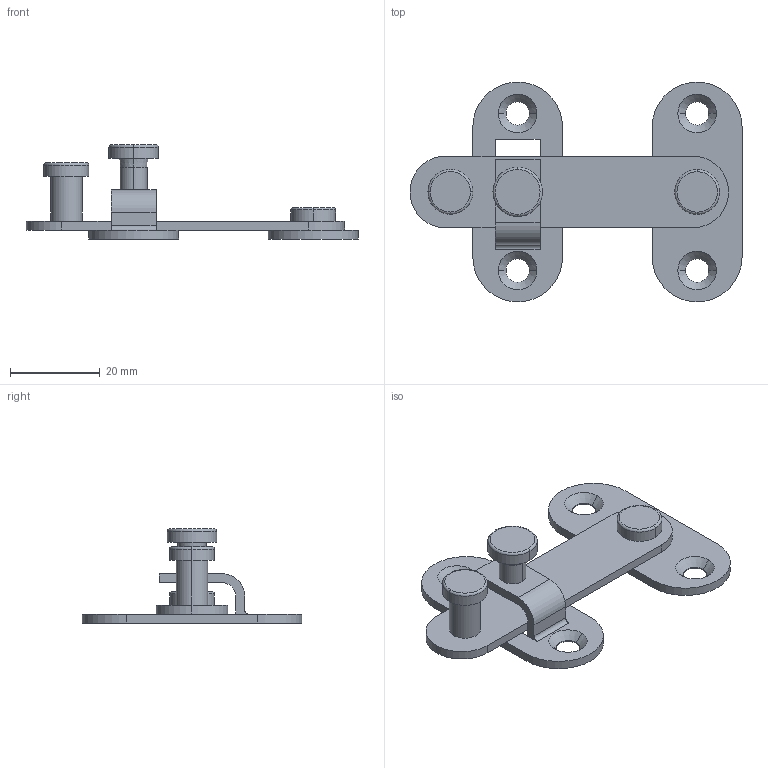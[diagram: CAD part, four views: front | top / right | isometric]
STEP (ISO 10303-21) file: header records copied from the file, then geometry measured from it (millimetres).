
FILE_DESCRIPTION (( 'STEP AP203' ), '1' );
FILE_NAME ('J3UK.STEP', '2023-07-03T00:58:35', ( '' ), ( '' ), 'SwSTEP 2.0', 'SolidWorks 2019', '' );
FILE_SCHEMA (( 'CONFIG_CONTROL_DESIGN' ));
Length unit declared in the file: millimetre
Products named in the file (4): J3UK_a; J3UK; J3UK_handle; J3UK_b
Assembly tree (3 placements, depth 2):
  J3UK
    J3UK_a
    J3UK_handle
    J3UK_b
Bounding box: 74 x 49 x 21 mm (x, y, z)
Volume: 6834.7 mm3; surface area: 7558.7 mm2
Topology: 3 solids, 3 shells, 77 faces, 173 edges, 108 vertices
Faces by surface type: cylinder 29, plane 28, cone 14, torus 6
Entity records: 2591 total; most frequent: DIRECTION 425, CARTESIAN_POINT 364, ORIENTED_EDGE 346, EDGE_CURVE 173, AXIS2_PLACEMENT_3D 169, VERTEX_POINT 108, EDGE_LOOP 93, VECTOR 87
